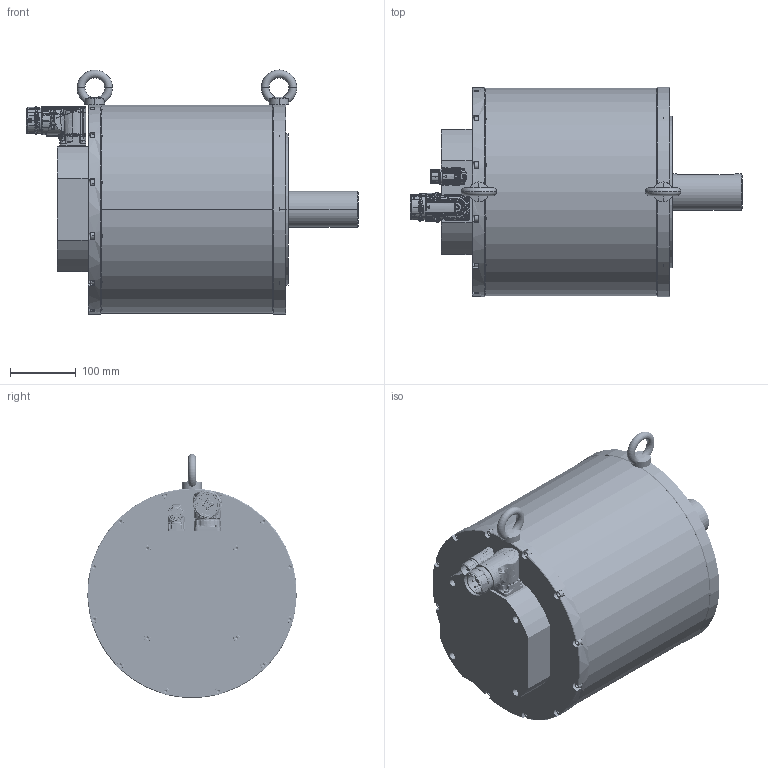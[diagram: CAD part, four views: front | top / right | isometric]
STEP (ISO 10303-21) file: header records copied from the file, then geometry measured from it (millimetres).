
FILE_DESCRIPTION(('CATIA V5 STEP Exchange'),'2;1');
FILE_NAME('C:\Documents and Settings\max\Documenti\sangallimotori\3d step\tg8\motore_DGM5_82.stp','2010-12-12T15:08:29+00:00',('none'),('none'),'CATIA Version 5 Release 10 (IN-8)','CATIA V5 STEP AP203',' none');
FILE_SCHEMA(('CONFIG_CONTROL_DESIGN'));
Length unit declared in the file: millimetre
Assembly tree (60 placements, depth 0):
Bounding box: 504.5 x 317.89 x 370.78 mm (x, y, z)
Volume: 25514492.1 mm3; surface area: 1026586.6 mm2
Topology: 56 solids, 60 shells, 5171 faces, 16780 edges, 11797 vertices
Faces by surface type: cylinder 1631, bspline 1305, plane 1101, cone 499, torus 484, sphere 151
Entity records: 266616 total; most frequent: CARTESIAN_POINT 168630, ORIENTED_EDGE 27214, EDGE_CURVE 13716, DIRECTION 10038, VERTEX_POINT 9919, B_SPLINE_CURVE_WITH_KNOTS 8134, AXIS2_PLACEMENT_3D 5023, EDGE_LOOP 4206
